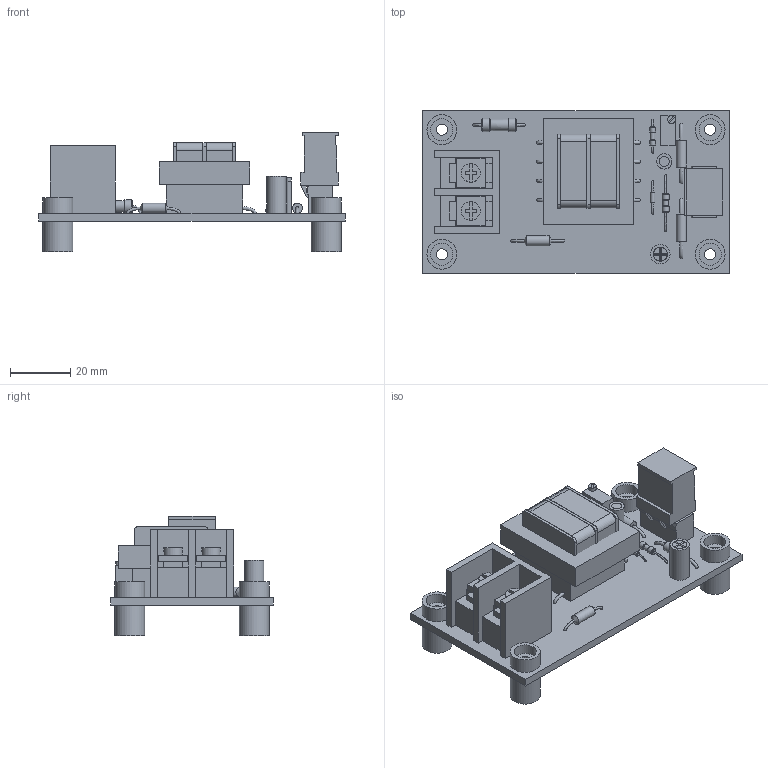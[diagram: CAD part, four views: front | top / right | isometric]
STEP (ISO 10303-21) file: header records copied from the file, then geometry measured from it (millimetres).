
FILE_DESCRIPTION(/* description */ (''),/* implementation_level */ '2;1');
FILE_NAME(/* name */ 'R:\Temp\J. Narvaez\IAN DRAWINGS\002 - Sensors\017 - MCS-VOLTAGE-1PH\MCS-VOLTAGE 3D.stp',/* time_stamp */ '2022-11-14T09:57:59-05:00',/* author */ ('mjeter'),/* organization */ ('unknown'),/* preprocessor_version */ 'ST-DEVELOPER v19',/* originating_system */ 'Autodesk Inventor 2023',/* authorisation */ '');
FILE_SCHEMA (('AUTOMOTIVE_DESIGN { 1 0 10303 214 3 1 1 }'));
Length unit declared in the file: inch
Products named in the file (1): MCS-VOLTAGE 3D
Bounding box: 101.6 x 53.98 x 39.69 mm (x, y, z)
Volume: 48116.1 mm3; surface area: 33469.4 mm2
Topology: 52 solids, 52 shells, 440 faces, 948 edges, 632 vertices
Faces by surface type: plane 339, cylinder 62, bspline 22, cone 17
Full cylindrical faces by diameter (mm): 1.524 x2, 1.854 x1, 1.905 x2, 2.362 x2, 2.54 x1, 3.302 x3, 3.353 x2, 3.683 x4, 3.861 x1, 4.445 x2, 4.661 x2, 5.08 x1, 6.217 x2, 6.439 x1, 7.366 x12, 9.906 x8
Entity records: 17697 total; most frequent: CARTESIAN_POINT 8005, ORIENTED_EDGE 1884, DIRECTION 1875, EDGE_CURVE 942, LINE 685, VECTOR 685, VERTEX_POINT 624, AXIS2_PLACEMENT_3D 595
